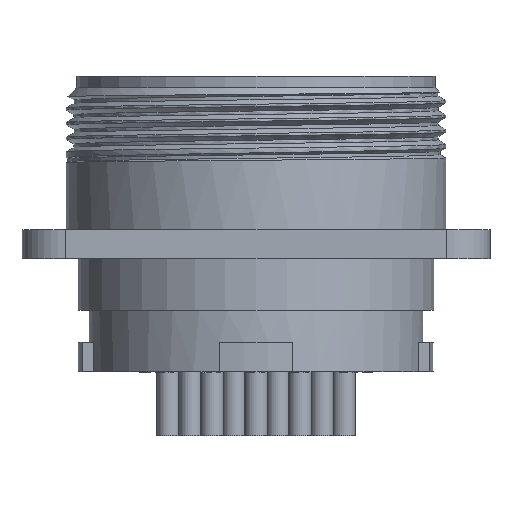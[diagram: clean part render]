
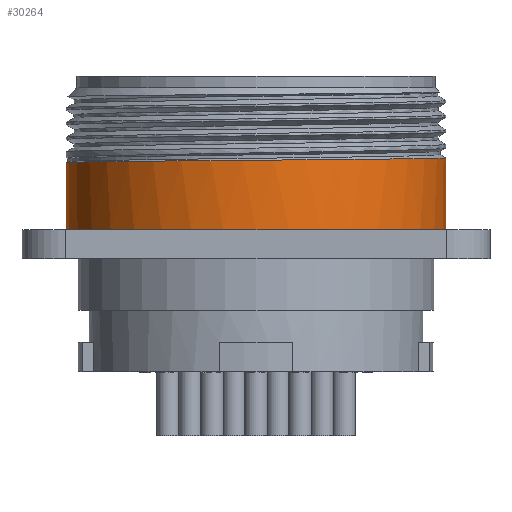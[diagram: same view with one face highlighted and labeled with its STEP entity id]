
A CAD part, front view. The second image highlights one B-rep face of the part: STEP entity #30264.
In plain terms, the highlighted cylindrical face has radius 12.98 mm (diameter 25.96 mm), a partial arc.
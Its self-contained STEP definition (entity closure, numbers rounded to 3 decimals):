
#44 = CARTESIAN_POINT ( 'NONE',  ( 11.028, -6.859, -5.644 ) ) ;
#1605 = DIRECTION ( 'NONE',  ( 1., 0., 0. ) ) ;
#3551 = VERTEX_POINT ( 'NONE', #14213 ) ;
#4217 = CARTESIAN_POINT ( 'NONE',  ( -12.294, -4.186, -5.883 ) ) ;
#4426 = CARTESIAN_POINT ( 'NONE',  ( -5.36, -11.829, -5.796 ) ) ;
#4626 = CARTESIAN_POINT ( 'NONE',  ( 4.181, -12.296, -5.716 ) ) ;
#4700 = CARTESIAN_POINT ( 'NONE',  ( 0., 0., -10.5 ) ) ;
#4835 = CARTESIAN_POINT ( 'NONE',  ( 11.65, -5.739, -5.633 ) ) ;
#7121 = VERTEX_POINT ( 'NONE', #28299 ) ;
#8996 = CARTESIAN_POINT ( 'NONE',  ( -11.661, -5.764, -5.869 ) ) ;
#9204 = CARTESIAN_POINT ( 'NONE',  ( -4.182, -12.295, -5.786 ) ) ;
#9426 = CARTESIAN_POINT ( 'NONE',  ( 5.751, -11.667, -5.702 ) ) ;
#9451 = VECTOR ( 'NONE', #14442, 1000. ) ;
#9503 = DIRECTION ( 'NONE',  ( 1., 0., 0. ) ) ;
#9613 = VERTEX_POINT ( 'NONE', #17664 ) ;
#9632 = CARTESIAN_POINT ( 'NONE',  ( 12.319, -4.176, -5.619 ) ) ;
#11856 = B_SPLINE_CURVE_WITH_KNOTS ( 'NONE', 3,
 ( #46674, #13556, #23079, #56268, #27833, #60983, #32591, #4217, #37358, #8996, #42142, #13761, #46876, #18524, #51677, #23292, #56467, #28047, #61194, #32806, #4426, #37572, #9204, #42351, #13959, #47091, #18732, #51888, #23500, #56675, #28251, #61397, #33023, #4626, #37783, #9426, #42567, #14179, #47308, #18950, #52101, #23715, #56877, #28467, #44, #33233, #4835, #37988, #9632, #42774, #14392, #47525, #19156, #52315, #23911 ),
 .UNSPECIFIED., .F., .F.,
 ( 4, 2, 2, 2, 2, 2, 2, 2, 2, 2, 2, 2, 2, 2, 2, 2, 2, 2, 2, 2, 1, 2, 2, 2, 2, 2, 2, 4 ),
 ( 0.012, 0.014, 0.015, 0.016, 0.018, 0.02, 0.021, 0.023, 0.025, 0.027, 0.028, 0.029, 0.03, 0.032, 0.033, 0.036, 0.037, 0.038, 0.041, 0.042, 0.043, 0.045, 0.046, 0.047, 0.048, 0.051, 0.052, 0.054 ),
 .UNSPECIFIED. ) ;
#13200 = EDGE_CURVE ( 'NONE', #16078, #7121, #22026, .T. ) ;
#13556 = CARTESIAN_POINT ( 'NONE',  ( -12.98, -0.422, -5.914 ) ) ;
#13761 = CARTESIAN_POINT ( 'NONE',  ( -10.555, -7.567, -5.852 ) ) ;
#13959 = CARTESIAN_POINT ( 'NONE',  ( -2.952, -12.647, -5.776 ) ) ;
#14179 = CARTESIAN_POINT ( 'NONE',  ( 7.564, -10.557, -5.685 ) ) ;
#14213 = CARTESIAN_POINT ( 'NONE',  ( 12.98, 0., -10.5 ) ) ;
#14392 = CARTESIAN_POINT ( 'NONE',  ( 12.813, -2.119, -5.602 ) ) ;
#14442 = DIRECTION ( 'NONE',  ( 0., 0., 1. ) ) ;
#16078 = VERTEX_POINT ( 'NONE', #44983 ) ;
#17664 = CARTESIAN_POINT ( 'NONE',  ( 12.98, 0., -5.584 ) ) ;
#18524 = CARTESIAN_POINT ( 'NONE',  ( -9.758, -8.57, -5.841 ) ) ;
#18732 = CARTESIAN_POINT ( 'NONE',  ( -1.692, -12.876, -5.765 ) ) ;
#18950 = CARTESIAN_POINT ( 'NONE',  ( 8.562, -9.765, -5.675 ) ) ;
#19156 = CARTESIAN_POINT ( 'NONE',  ( 12.959, -0.846, -5.591 ) ) ;
#22026 = LINE ( 'NONE', #42826, #9451 ) ;
#23079 = CARTESIAN_POINT ( 'NONE',  ( -12.959, -0.845, -5.911 ) ) ;
#23084 = DIRECTION ( 'NONE',  ( 0., 0., 1. ) ) ;
#23292 = CARTESIAN_POINT ( 'NONE',  ( -8.576, -9.78, -5.827 ) ) ;
#23500 = CARTESIAN_POINT ( 'NONE',  ( -0.413, -12.98, -5.754 ) ) ;
#23715 = CARTESIAN_POINT ( 'NONE',  ( 9.757, -8.571, -5.661 ) ) ;
#23911 = CARTESIAN_POINT ( 'NONE',  ( 12.98, 0., -5.584 ) ) ;
#25224 = EDGE_CURVE ( 'NONE', #3551, #9613, #54103, .T. ) ;
#25848 = ORIENTED_EDGE ( 'NONE', *, *, #46170, .F. ) ;
#26347 = ORIENTED_EDGE ( 'NONE', *, *, #44480, .F. ) ;
#27833 = CARTESIAN_POINT ( 'NONE',  ( -12.813, -2.116, -5.901 ) ) ;
#28047 = CARTESIAN_POINT ( 'NONE',  ( -6.856, -11.03, -5.81 ) ) ;
#28251 = CARTESIAN_POINT ( 'NONE',  ( 1.7, -12.896, -5.737 ) ) ;
#28299 = CARTESIAN_POINT ( 'NONE',  ( -12.98, 0., -5.917 ) ) ;
#28467 = CARTESIAN_POINT ( 'NONE',  ( 10.553, -7.569, -5.651 ) ) ;
#30264 = ADVANCED_FACE ( 'NONE', ( #47717 ), #35103, .T. ) ;
#32591 = CARTESIAN_POINT ( 'NONE',  ( -12.543, -3.368, -5.89 ) ) ;
#32806 = CARTESIAN_POINT ( 'NONE',  ( -5.742, -11.648, -5.8 ) ) ;
#33023 = CARTESIAN_POINT ( 'NONE',  ( 3.365, -12.543, -5.723 ) ) ;
#33233 = CARTESIAN_POINT ( 'NONE',  ( 11.247, -6.493, -5.64 ) ) ;
#35103 = CYLINDRICAL_SURFACE ( 'NONE', #52644, 12.98 ) ;
#37358 = CARTESIAN_POINT ( 'NONE',  ( -12.149, -4.589, -5.879 ) ) ;
#37572 = CARTESIAN_POINT ( 'NONE',  ( -4.58, -12.152, -5.789 ) ) ;
#37783 = CARTESIAN_POINT ( 'NONE',  ( 4.58, -12.153, -5.713 ) ) ;
#37858 = DIRECTION ( 'NONE',  ( 0., 0., -1. ) ) ;
#37988 = CARTESIAN_POINT ( 'NONE',  ( 11.833, -5.352, -5.629 ) ) ;
#39347 = CARTESIAN_POINT ( 'NONE',  ( 0., 0., -10.5 ) ) ;
#42142 = CARTESIAN_POINT ( 'NONE',  ( -11.263, -6.508, -5.862 ) ) ;
#42351 = CARTESIAN_POINT ( 'NONE',  ( -3.368, -12.543, -5.779 ) ) ;
#42567 = CARTESIAN_POINT ( 'NONE',  ( 6.497, -11.269, -5.696 ) ) ;
#42774 = CARTESIAN_POINT ( 'NONE',  ( 12.564, -3.368, -5.612 ) ) ;
#42826 = CARTESIAN_POINT ( 'NONE',  ( -12.98, 0., -10.5 ) ) ;
#42968 = VECTOR ( 'NONE', #23084, 1000. ) ;
#44123 = DIRECTION ( 'NONE',  ( 0., 0., 1. ) ) ;
#44480 = EDGE_CURVE ( 'NONE', #3551, #16078, #49648, .T. ) ;
#44983 = CARTESIAN_POINT ( 'NONE',  ( -12.98, 0., -10.5 ) ) ;
#46170 = EDGE_CURVE ( 'NONE', #7121, #9613, #11856, .T. ) ;
#46674 = CARTESIAN_POINT ( 'NONE',  ( -12.98, 0., -5.917 ) ) ;
#46876 = CARTESIAN_POINT ( 'NONE',  ( -10.299, -7.912, -5.848 ) ) ;
#47091 = CARTESIAN_POINT ( 'NONE',  ( -2.114, -12.814, -5.769 ) ) ;
#47308 = CARTESIAN_POINT ( 'NONE',  ( 7.907, -10.302, -5.682 ) ) ;
#47525 = CARTESIAN_POINT ( 'NONE',  ( 12.876, -1.694, -5.598 ) ) ;
#47717 = FACE_OUTER_BOUND ( 'NONE', #53269, .T. ) ;
#49648 = CIRCLE ( 'NONE', #58627, 12.98 ) ;
#51476 = CARTESIAN_POINT ( 'NONE',  ( 12.98, 0., -10.5 ) ) ;
#51677 = CARTESIAN_POINT ( 'NONE',  ( -9.473, -8.884, -5.837 ) ) ;
#51888 = CARTESIAN_POINT ( 'NONE',  ( -0.84, -12.96, -5.758 ) ) ;
#52101 = CARTESIAN_POINT ( 'NONE',  ( 9.188, -9.198, -5.667 ) ) ;
#52315 = CARTESIAN_POINT ( 'NONE',  ( 12.98, -0.423, -5.588 ) ) ;
#52644 = AXIS2_PLACEMENT_3D ( 'NONE', #39347, #44123, #1605 ) ;
#53179 = ORIENTED_EDGE ( 'NONE', *, *, #13200, .F. ) ;
#53269 = EDGE_LOOP ( 'NONE', ( #53179, #26347, #59350, #25848 ) ) ;
#54103 = LINE ( 'NONE', #51476, #42968 ) ;
#56268 = CARTESIAN_POINT ( 'NONE',  ( -12.876, -1.691, -5.904 ) ) ;
#56467 = CARTESIAN_POINT ( 'NONE',  ( -7.922, -10.317, -5.821 ) ) ;
#56675 = CARTESIAN_POINT ( 'NONE',  ( 0.859, -12.979, -5.744 ) ) ;
#56877 = CARTESIAN_POINT ( 'NONE',  ( 10.297, -7.914, -5.654 ) ) ;
#58627 = AXIS2_PLACEMENT_3D ( 'NONE', #4700, #37858, #9503 ) ;
#59350 = ORIENTED_EDGE ( 'NONE', *, *, #25224, .T. ) ;
#60983 = CARTESIAN_POINT ( 'NONE',  ( -12.647, -2.954, -5.894 ) ) ;
#61194 = CARTESIAN_POINT ( 'NONE',  ( -6.489, -11.249, -5.807 ) ) ;
#61397 = CARTESIAN_POINT ( 'NONE',  ( 2.949, -12.648, -5.727 ) ) ;
